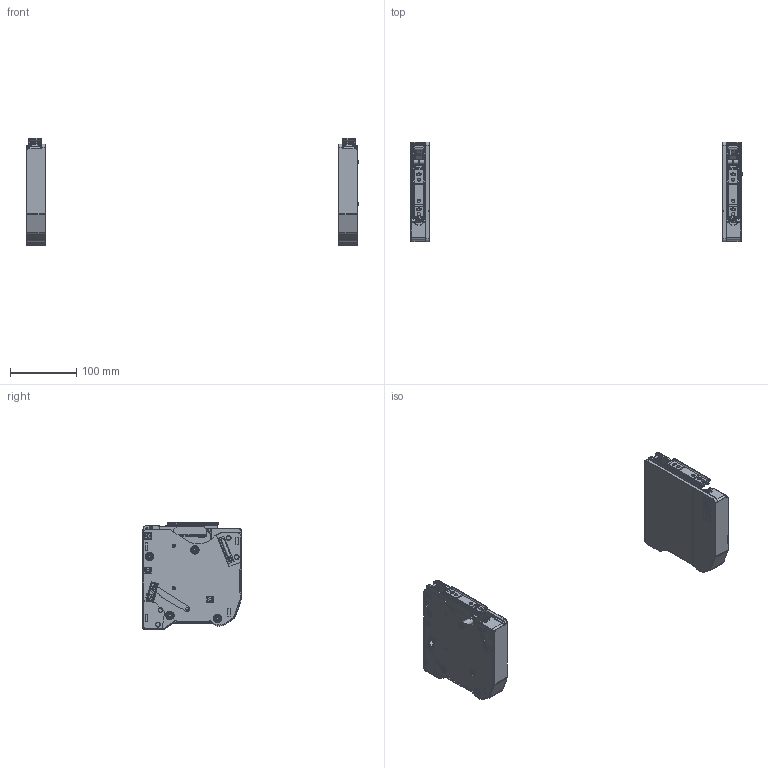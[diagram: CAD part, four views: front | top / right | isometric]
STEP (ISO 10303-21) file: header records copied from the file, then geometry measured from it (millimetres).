
FILE_DESCRIPTION(/* description */ (''),/* implementation_level */ '2;1');
FILE_NAME(/* name */ 'C:\Nextcloud\02_biblioteki_cad\ATM\Project\Podnośnik SkyUp\Eksporty\Podnośnik frontu SkyUp PG-480 P1 Strong (5KG-6KG).stp',/* time_stamp */ '2022-08-22T14:31:36+02:00',/* author */ ('GTW20'),/* organization */ (''),/* preprocessor_version */ 'ST-DEVELOPER v18.1',/* originating_system */ 'Autodesk Inventor 2022',/* authorisation */ '');
FILE_SCHEMA (('AUTOMOTIVE_DESIGN { 1 0 10303 214 3 1 1 }'));
Products named in the file (1): Podnośnik frontu SkyUp PG-480 P1 Strong (5
KG-6KG)
Bounding box: 502 x 151 x 163 mm (x, y, z)
Volume: 353450.7 mm3; surface area: 459493.6 mm2
Topology: 116 solids, 116 shells, 3424 faces, 8600 edges, 5590 vertices
Faces by surface type: plane 2034, cylinder 1148, torus 118, sphere 80, bspline 28, cone 16
Full cylindrical faces by diameter (mm): 2 x16, 3 x22, 4 x114, 4.6 x4, 5 x22, 6 x32, 7 x38, 8 x4, 9.5 x2, 10 x24, 11 x2
Entity records: 110183 total; most frequent: CARTESIAN_POINT 24979, DIRECTION 17974, ORIENTED_EDGE 17200, EDGE_CURVE 8600, AXIS2_PLACEMENT_3D 6059, LINE 5856, VECTOR 5856, VERTEX_POINT 5590
